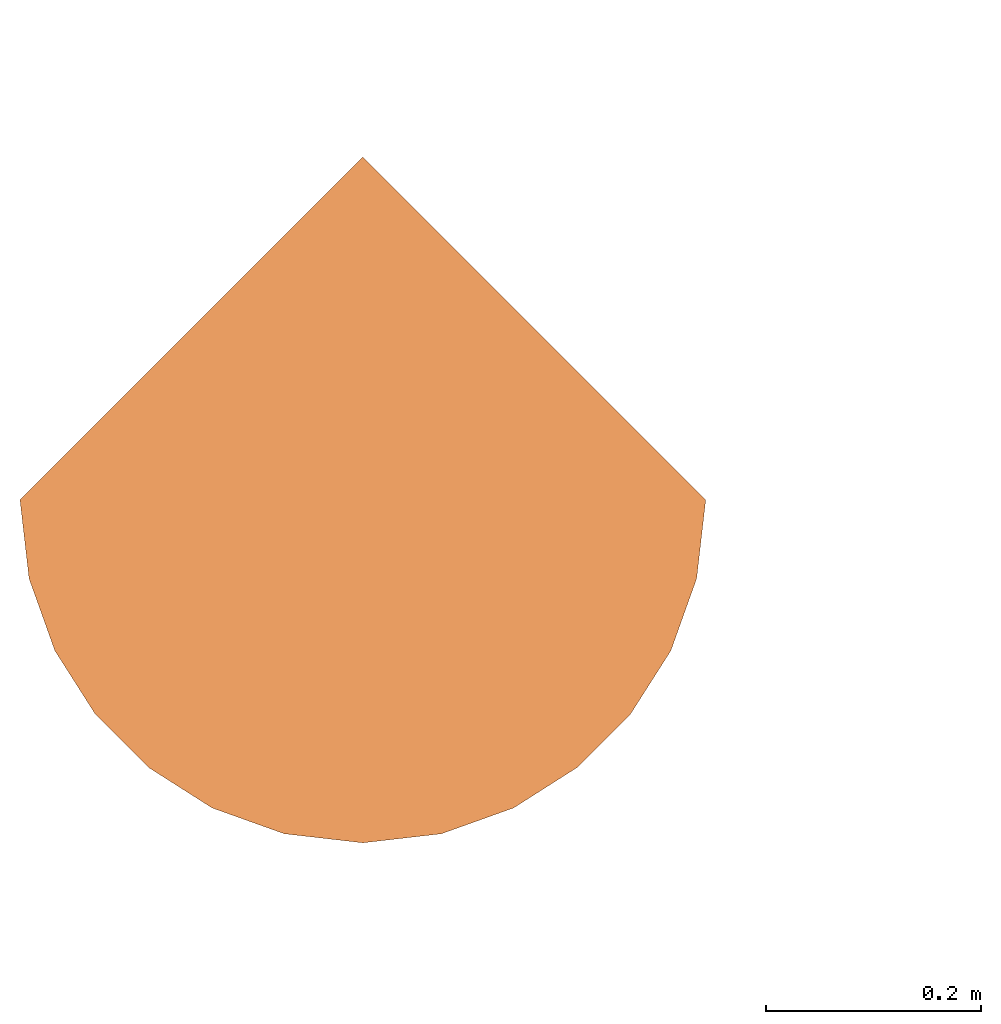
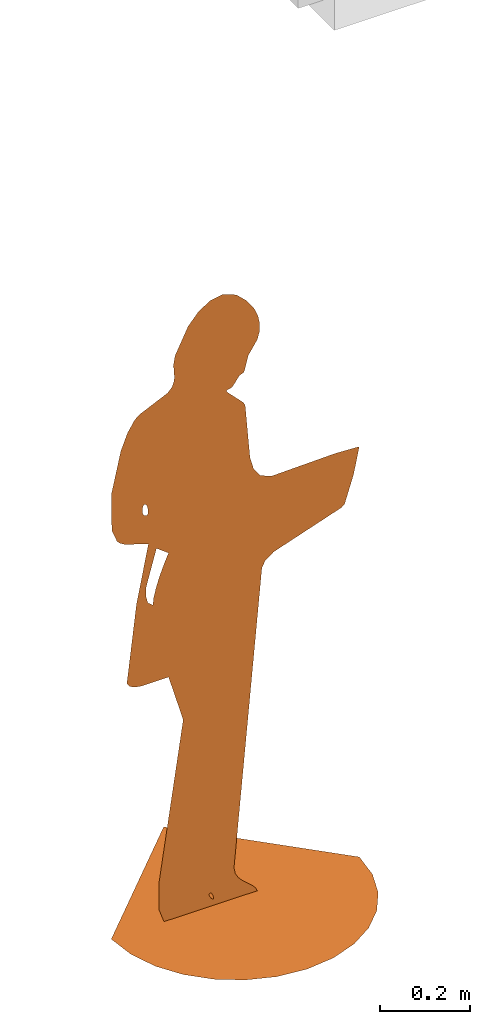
# One storey, part 17 of 18: 1 proxy.
"""IFC2X3 building model written with IfcOpenShell, lengths in metres."""

import ifcopenshell
import ifcopenshell.guid

model = None  # the IFC model being written
_history = None  # IfcOwnerHistory: only IFC2X3 demands one
_inside = {}  # id of a spatial element -> (the spatial element, [elements in it])
_under = {}  # id of a project, library or spatial element -> (it, [spatial elements below it])
_declared = {}  # id of a project -> (the project, [libraries it declares])
_typed = {}  # id of a type object -> (the type object, [elements of that type])
_made_of = {}  # id of a material, layer set ... -> (it, [elements and type objects made of it])


def new_model(schema):
    """Start an empty IFC model of exactly this schema.

    Asked for "IFC4X3", IfcOpenShell would pick the latest addendum, in which some entities
    have other attributes; the version numbers below select the first issue.
    IFC2X3 requires an IfcOwnerHistory on every rooted entity: one is made here for all.
    """
    global model, _history
    if schema == "IFC4X3":
        model = ifcopenshell.file(schema_version=(4, 3, 0, 0))
    else:
        model = ifcopenshell.file(schema=schema)
    _inside.clear()
    _under.clear()
    _declared.clear()
    _typed.clear()
    _made_of.clear()
    _history = None
    if model.schema == "IFC2X3":
        org = make("IfcOrganization", Name="unknown")
        user = make(
            "IfcPersonAndOrganization",
            ThePerson=make("IfcPerson", FamilyName="unknown"),
            TheOrganization=org,
        )
        app = make(
            "IfcApplication",
            ApplicationDeveloper=org,
            Version="unknown",
            ApplicationFullName="unknown",
            ApplicationIdentifier="unknown",
        )
        _history = make(
            "IfcOwnerHistory",
            OwningUser=user,
            OwningApplication=app,
            ChangeAction="ADDED",
            CreationDate=0,
        )
    return model


def make(cls, **values):
    """One entity of the class cls with the attributes given. An attribute that is None is left unset."""
    return model.create_entity(
        cls, **{name: value for name, value in values.items() if value is not None}
    )


def entity(cls, *values):
    """Any entity or typed value of the class cls, its attributes in the order of the schema. None: left unset."""
    e = model.create_entity(cls)
    for i, value in enumerate(values):
        if value is not None:
            e[i] = value
    return e


def rooted(cls, **values):
    """An entity with a GlobalId (a new one), such as an element, a storey or a relation."""
    return make(cls, GlobalId=ifcopenshell.guid.new(), OwnerHistory=_history, **values)


def si_unit(unit_type, name, prefix=None):
    """IfcSIUnit, for example si_unit("LENGTHUNIT", "METRE", prefix="MILLI")."""
    return make("IfcSIUnit", UnitType=unit_type, Prefix=prefix, Name=name)


def converted_unit(unit_type, name, factor, base, dimensions=None, offset=None):
    """IfcConversionBasedUnit, such as the inch: factor (a typed value) times the base unit."""
    return make(
        "IfcConversionBasedUnit"
        if offset is None
        else "IfcConversionBasedUnitWithOffset",
        ConversionOffset=offset,
        Dimensions=None
        if dimensions is None
        else entity("IfcDimensionalExponents", *dimensions),
        UnitType=unit_type,
        Name=name,
        ConversionFactor=make(
            "IfcMeasureWithUnit", ValueComponent=factor, UnitComponent=base
        ),
    )


def derived_unit(unit_type, elements):
    """IfcDerivedUnit: a product of units, each with its exponent."""
    return make(
        "IfcDerivedUnit",
        Elements=[
            make("IfcDerivedUnitElement", Unit=unit, Exponent=power)
            for unit, power in elements
        ],
        UnitType=unit_type,
    )


def assignment(units):
    """IfcUnitAssignment: the units of a project."""
    return None if units is None else make("IfcUnitAssignment", Units=units)


def point(xyz):
    """IfcCartesianPoint."""
    return None if xyz is None else make("IfcCartesianPoint", Coordinates=xyz)


def direction(xyz):
    """IfcDirection."""
    return None if xyz is None else make("IfcDirection", DirectionRatios=xyz)


def frame(location, z_axis=None, x_axis=None):
    """IfcAxis2Placement3D, a coordinate frame: its origin and axes. An axis left out is left unset."""
    return make(
        "IfcAxis2Placement3D",
        Location=point(location),
        Axis=direction(z_axis),
        RefDirection=direction(x_axis),
    )


def origin():
    """The frame at (0, 0, 0) with its axes left unset."""
    return frame((0.0, 0.0, 0.0))


def place(relative_to, where):
    """IfcLocalPlacement: puts the frame where relative to a parent placement (None: the world)."""
    return make(
        "IfcLocalPlacement", PlacementRelTo=relative_to, RelativePlacement=where
    )


def context(
    kind, dimensions, precision=None, world=None, true_north=None, identifier=None
):
    """IfcGeometricRepresentationContext, for example the 3D "Model" context."""
    return make(
        "IfcGeometricRepresentationContext",
        ContextIdentifier=identifier,
        ContextType=kind,
        CoordinateSpaceDimension=dimensions,
        Precision=precision,
        WorldCoordinateSystem=world,
        TrueNorth=true_north,
    )


def subcontext(parent, identifier, kind, view, scale=None):
    """IfcGeometricRepresentationSubContext, for example "Body" below "Model"."""
    return make(
        "IfcGeometricRepresentationSubContext",
        ContextIdentifier=identifier,
        ContextType=kind,
        ParentContext=parent,
        TargetScale=scale,
        TargetView=view,
    )


def project(units=None, contexts=None):
    """IfcProject with its units and contexts."""
    return rooted(
        "IfcProject",
        Name="project",
        RepresentationContexts=contexts,
        UnitsInContext=assignment(units),
    )


def spatial(cls, under=None, at=None, **own):
    """A site, building, storey or space (cls), placed at a placement, below another one or the project."""
    s = rooted(cls, ObjectPlacement=at, **own)
    if under is not None:
        _under.setdefault(under.id(), (under, []))[1].append(s)
    return s


def faces_of(points, faces, orient=None, outer=None):
    """IfcFace entities. A face is a list of loops; a loop is a list of indices into points, from 0.

    orient and outer hold one flag for each loop. By default every Orientation is true, the
    first loop of a face is its IfcFaceOuterBound and the others are IfcFaceBound.
    """
    made = []
    for i, loops in enumerate(faces):
        bounds = []
        for j, loop in enumerate(loops):
            is_outer = j == 0 if outer is None else outer[i][j]
            bounds.append(
                make(
                    "IfcFaceOuterBound" if is_outer else "IfcFaceBound",
                    Bound=make("IfcPolyLoop", Polygon=[points[k] for k in loop]),
                    Orientation=True if orient is None else orient[i][j],
                )
            )
        made.append(make("IfcFace", Bounds=bounds))
    return made


def face_set(faces, orient=None, outer=None):
    """The faces of one IfcConnectedFaceSet. surface_model builds it on its shared points."""
    return ("IfcConnectedFaceSet", faces, orient, outer)


def surface_model(cls, points, shells):
    """IfcFaceBasedSurfaceModel or IfcShellBasedSurfaceModel (cls): surfaces that need not close."""
    shared = [point(p) for p in points]
    made = [make(c, CfsFaces=faces_of(shared, fs, o, b)) for c, fs, o, b in shells]
    if cls == "IfcFaceBasedSurfaceModel":
        return make(cls, FbsmFaces=made)
    return make(cls, SbsmBoundary=made)


def shape(context_of_items, identifier, shape_type, items):
    """IfcShapeRepresentation: the items that make up one representation, for example the "Body"."""
    return make(
        "IfcShapeRepresentation",
        ContextOfItems=context_of_items,
        RepresentationIdentifier=identifier,
        RepresentationType=shape_type,
        Items=items,
    )


def source(mapping_origin, context_of_items, identifier, shape_type, items):
    """IfcRepresentationMap: a shape defined once, which mapped items show again and again."""
    return make(
        "IfcRepresentationMap",
        MappingOrigin=mapping_origin,
        MappedRepresentation=shape(context_of_items, identifier, shape_type, items),
    )


def transform(
    local_origin,
    x_axis=None,
    y_axis=None,
    z_axis=None,
    scale=None,
    scale2=None,
    scale3=None,
    uniform=True,
):
    """IfcCartesianTransformationOperator3D, or its non-uniform kind. x_axis, y_axis, z_axis: its Axis1, 2, 3."""
    if uniform:
        return make(
            "IfcCartesianTransformationOperator3D",
            Axis1=direction(x_axis),
            Axis2=direction(y_axis),
            LocalOrigin=point(local_origin),
            Scale=scale,
            Axis3=direction(z_axis),
        )
    return make(
        "IfcCartesianTransformationOperator3DnonUniform",
        Axis1=direction(x_axis),
        Axis2=direction(y_axis),
        LocalOrigin=point(local_origin),
        Scale=scale,
        Axis3=direction(z_axis),
        Scale2=scale2,
        Scale3=scale3,
    )


def mapped(mapping_source, mapping_target):
    """IfcMappedItem: shows the shape of a source again, moved by a transform."""
    return make(
        "IfcMappedItem", MappingSource=mapping_source, MappingTarget=mapping_target
    )


def made_of(thing, what):
    """Note that an element or type object is made of a material, layer set ...; save() writes the relation."""
    if what is not None:
        _made_of.setdefault(what.id(), (what, []))[1].append(thing)
    return thing


def type_object(cls, material=None, **own):
    """A type object (cls), such as IfcWallType, which elements share."""
    return made_of(rooted(cls, **own), material)


def type_shapes(of_type, sources):
    """Give a type object the sources (RepresentationMaps) that its elements show as mapped items."""
    of_type.RepresentationMaps = sources


def element(
    cls,
    number,
    at=None,
    inside=None,
    cuts=None,
    type_object=None,
    material=None,
    context=None,
    identifier="Body",
    shape_type=None,
    held_by="IfcProductDefinitionShape",
    body=None,
    shapes=None,
    **own,
):
    """One element of the class cls, such as IfcWall. Its Tag is "e" and its number.

    at: its placement. inside: the storey or other place that contains it. cuts: it is an
    opening in that element (IfcRelVoidsElement). A single representation is given by context,
    identifier, shape_type and body (its items); several are given by shapes. held_by: the class
    of the entity that holds the representations. save() writes the other relations.
    """
    e = rooted(cls, Tag="e%d" % number, ObjectPlacement=at, **own)
    if body is not None:
        shapes = [shape(context, identifier, shape_type, body)]
    if shapes is not None:
        e.Representation = make(held_by, Representations=shapes)
    if inside is not None:
        _inside.setdefault(inside.id(), (inside, []))[1].append(e)
    if cuts is not None:
        rooted(
            "IfcRelVoidsElement", RelatingBuildingElement=cuts, RelatedOpeningElement=e
        )
    if type_object is not None:
        _typed.setdefault(type_object.id(), (type_object, []))[1].append(e)
    return made_of(e, material)


def aggregate(whole, parts):
    """IfcRelAggregates: a whole, such as a stair, and the parts it consists of."""
    return rooted("IfcRelAggregates", RelatingObject=whole, RelatedObjects=parts)


def save(model, path):
    """Write the relations noted so far, then the file.

    IfcRelAggregates (storeys below a building ...), IfcRelContainedInSpatialStructure (elements
    in a storey), IfcRelDefinesByType, IfcRelAssociatesMaterial and IfcRelDeclares: one each for
    every whole, place, type object, material and project.
    """
    for whole, parts in _under.values():
        aggregate(whole, parts)
    for where, things in _inside.values():
        rooted(
            "IfcRelContainedInSpatialStructure",
            RelatedElements=things,
            RelatingStructure=where,
        )
    for kind, things in _typed.values():
        rooted("IfcRelDefinesByType", RelatedObjects=things, RelatingType=kind)
    for what, things in _made_of.values():
        rooted("IfcRelAssociatesMaterial", RelatedObjects=things, RelatingMaterial=what)
    for by, libraries in _declared.values():
        rooted("IfcRelDeclares", RelatingContext=by, RelatedDefinitions=libraries)
    model.write(path)


model = new_model("IFC2X3")

# Units and contexts
model_context = context("Model", 3, precision=1e-05, world=origin(), true_north=direction((6.12303176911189e-17, 1.0)))
body_context = subcontext(model_context, "Body", "Model", "MODEL_VIEW")
ifc_project = project(units=[si_unit("LENGTHUNIT", "METRE"), si_unit("AREAUNIT", "SQUARE_METRE"), si_unit("VOLUMEUNIT", "CUBIC_METRE"), converted_unit("PLANEANGLEUNIT", "DEGREE", entity("IfcRatioMeasure", 0.0174532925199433), si_unit("PLANEANGLEUNIT", "RADIAN"), dimensions=[0, 0, 0, 0, 0, 0, 0]), si_unit("MASSUNIT", "GRAM", prefix="KILO"), derived_unit("MASSDENSITYUNIT", [(si_unit("MASSUNIT", "GRAM", prefix="KILO"), 1), (si_unit("LENGTHUNIT", "METRE"), -3)]), derived_unit("MOMENTOFINERTIAUNIT", [(si_unit("LENGTHUNIT", "METRE"), 4)]), si_unit("TIMEUNIT", "SECOND"), si_unit("FREQUENCYUNIT", "HERTZ"), si_unit("THERMODYNAMICTEMPERATUREUNIT", "DEGREE_CELSIUS"), derived_unit("THERMALTRANSMITTANCEUNIT", [(si_unit("MASSUNIT", "GRAM", prefix="KILO"), 1), (si_unit("THERMODYNAMICTEMPERATUREUNIT", "KELVIN"), -1), (si_unit("TIMEUNIT", "SECOND"), -3)]), derived_unit("VOLUMETRICFLOWRATEUNIT", [(si_unit("LENGTHUNIT", "METRE"), 3), (si_unit("TIMEUNIT", "SECOND"), -1)]), si_unit("ELECTRICCURRENTUNIT", "AMPERE"), si_unit("ELECTRICVOLTAGEUNIT", "VOLT"), si_unit("POWERUNIT", "WATT"), si_unit("FORCEUNIT", "NEWTON", prefix="KILO"), si_unit("ILLUMINANCEUNIT", "LUX"), si_unit("LUMINOUSFLUXUNIT", "LUMEN"), si_unit("LUMINOUSINTENSITYUNIT", "CANDELA"), derived_unit("USERDEFINED", [(si_unit("MASSUNIT", "GRAM", prefix="KILO"), -1), (si_unit("LENGTHUNIT", "METRE"), -2), (si_unit("TIMEUNIT", "SECOND"), 3), (si_unit("LUMINOUSFLUXUNIT", "LUMEN"), 1)]), derived_unit("LINEARVELOCITYUNIT", [(si_unit("LENGTHUNIT", "METRE"), 1), (si_unit("TIMEUNIT", "SECOND"), -1)]), si_unit("PRESSUREUNIT", "PASCAL"), derived_unit("USERDEFINED", [(si_unit("LENGTHUNIT", "METRE"), -2), (si_unit("MASSUNIT", "GRAM", prefix="KILO"), 1), (si_unit("TIMEUNIT", "SECOND"), -2)]), derived_unit("LINEARFORCEUNIT", [(si_unit("MASSUNIT", "GRAM", prefix="KILO"), 1), (si_unit("LENGTHUNIT", "METRE"), 1), (si_unit("TIMEUNIT", "SECOND"), -2), (si_unit("LENGTHUNIT", "METRE"), -1)]), derived_unit("PLANARFORCEUNIT", [(si_unit("MASSUNIT", "GRAM", prefix="KILO"), 1), (si_unit("LENGTHUNIT", "METRE"), 1), (si_unit("TIMEUNIT", "SECOND"), -2), (si_unit("LENGTHUNIT", "METRE"), -2)])], contexts=[model_context])

# Site, building, storey
site_placement = place(None, origin())
site = spatial("IfcSite", under=ifc_project, at=site_placement, Name="Surface", CompositionType="ELEMENT")
building_placement = place(site_placement, origin())
building = spatial("IfcBuilding", under=site, at=building_placement, CompositionType="ELEMENT")
storey_placement = place(building_placement, origin())
storey = spatial("IfcBuildingStorey", under=building, at=storey_placement, Name="RDC", CompositionType="ELEMENT", Elevation=-1.94916083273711e-14)

# Proxy
building_element_proxy_type = type_object("IfcBuildingElementProxyType", Name="RPC Femme:Lisa", PredefinedType="NOTDEFINED")
shared_shape = source(origin(), body_context, "Body", "SurfaceModel", [
    surface_model("IfcFaceBasedSurfaceModel", [(0.318654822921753, 2.78576924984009e-08, 4.24172741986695e-08), (-4.17865344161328e-08, 0.318654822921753, 4.24172741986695e-08), (-0.318654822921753, 0.0, 4.24172741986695e-08), (0.310230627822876, -0.0730145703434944, 4.24172741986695e-08), (-0.310230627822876, -0.0730146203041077, 4.24172741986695e-08), (0.286238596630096, -0.140066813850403, 4.24172741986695e-08), (-0.286238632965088, -0.14006686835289, 4.24172741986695e-08), (-0.248599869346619, -0.199235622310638, 4.24172741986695e-08), (0.248599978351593, -0.199235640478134, 4.24172741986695e-08), (0.199235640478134, -0.248599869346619, 4.24172741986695e-08), (-0.199235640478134, -0.248599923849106, 4.24172741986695e-08), (-0.140066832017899, -0.286238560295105, 4.24172741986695e-08), (-0.0730145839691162, -0.310230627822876, 4.24172741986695e-08), (1.39288462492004e-08, -0.318654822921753, 4.24172741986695e-08), (0.0730146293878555, -0.310230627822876, 4.24172741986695e-08), (0.140066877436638, -0.286238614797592, 4.24172741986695e-08), (-0.211632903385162, 4.18688860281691e-07, 0.86958950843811), (-0.133775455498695, -2.28444324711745e-06, 0.531148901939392), (-0.171402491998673, -1.25225027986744e-06, 0.660382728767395), (-0.174873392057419, 1.37999741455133e-06, 0.989948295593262), (-0.171280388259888, 1.43756228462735e-06, 0.997155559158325), (-0.0645414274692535, -6.23517512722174e-06, 0.0365050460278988), (-0.181166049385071, 1.2656338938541e-06, 0.975629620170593), (-0.188972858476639, 1.11095285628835e-06, 0.956263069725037), (0.0516611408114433, -6.44441624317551e-06, 0.0103074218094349), (0.0564128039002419, -6.52674214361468e-06, 0.0), (-0.183261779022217, -6.52674214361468e-06, 0.0), (0.042646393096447, -6.36638715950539e-06, 0.0200769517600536), (-0.233749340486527, 2.42748774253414e-06, 1.12109733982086), (-0.228229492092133, 2.40965013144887e-06, 1.11886397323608), (-0.22322620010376, 1.77577831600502e-06, 1.03950130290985), (-0.241853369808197, -1.25381847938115e-06, 0.660186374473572), (-0.258831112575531, -1.22941754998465e-06, 0.663241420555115), (-0.271669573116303, -1.17811702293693e-06, 0.669664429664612), (-0.278426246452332, -1.09142624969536e-06, 0.68051834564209), (-0.253934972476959, 5.4655446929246e-07, 0.885598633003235), (-0.224559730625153, 5.03259847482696e-07, 0.880177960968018), (-0.229693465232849, 6.60111227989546e-07, 0.899816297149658), (-0.22886419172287, 8.63417954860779e-07, 0.925270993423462), (-0.202521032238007, 1.62470223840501e-06, 1.02058610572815), (-0.285405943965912, 1.94348737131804e-06, 1.06049893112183), (-0.295989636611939, 1.99623259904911e-06, 1.0671027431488), (-0.303727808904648, 2.05811147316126e-06, 1.07485023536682), (-0.317308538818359, 2.33260377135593e-06, 1.10921746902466), (-0.237153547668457, 2.46397603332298e-06, 1.12566573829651), (-0.23876551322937, 2.51163382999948e-06, 1.13163267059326), (-0.238908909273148, 2.56298328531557e-06, 1.13806178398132), (-0.237907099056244, 2.61054183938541e-06, 1.14401621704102), (-0.317994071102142, 3.13314370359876e-06, 1.20944754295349), (-0.236083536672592, 2.646829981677e-06, 1.14855961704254), (-0.233761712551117, 2.66436820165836e-06, 1.15075555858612), (-0.225250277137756, 2.42301849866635e-06, 1.12053770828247), (-0.0627427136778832, -6.24094838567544e-06, 0.035782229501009), (-0.066984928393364, -6.2499689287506e-06, 0.034652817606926), (-0.294042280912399, 3.99015323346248e-06, 1.31674797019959), (-0.230288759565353, 2.65538591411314e-06, 1.1496309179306), (0.317035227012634, 2.36809215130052e-06, 1.11366080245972), (0.317668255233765, 2.36430014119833e-06, 1.11318597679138), (0.317994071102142, 2.36026584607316e-06, 1.11268092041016), (0.31348046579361, 2.37804718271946e-06, 1.11490716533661), (0.303952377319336, 1.81530806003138e-06, 1.04445056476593), (0.255927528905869, 2.40043276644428e-06, 1.11770997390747), (0.280753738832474, 1.23499315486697e-06, 0.971793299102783), (0.27324831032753, 1.18284393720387e-06, 0.965264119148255), (0.0939398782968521, 2.36546443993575e-06, 1.1133317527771), (0.0985043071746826, 7.07794528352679e-07, 0.905786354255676), (0.0648742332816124, 2.45548635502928e-06, 1.12460279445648), (0.0771590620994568, 5.85066560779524e-07, 0.89042043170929), (-0.276826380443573, 4.33523169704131e-06, 1.35995274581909), (-0.258249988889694, 4.56890589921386e-06, 1.38920953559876), (-0.246257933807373, 4.64888296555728e-06, 1.39922287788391), (-0.17419383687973, 4.91311113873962e-06, 1.43230501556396), (-0.227347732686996, 2.62045972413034e-06, 1.145257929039), (-0.2238898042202, 2.46086874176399e-06, 1.12527673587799), (-0.0606268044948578, -6.26122326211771e-06, 0.0332437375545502), (0.0471253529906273, 2.64929690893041e-06, 1.14886853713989), (0.0682314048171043, 4.39482785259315e-07, 0.87219298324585), (-0.163307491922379, 5.00621678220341e-06, 1.44396215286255), (-0.065059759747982, 6.61297509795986e-06, 1.64513330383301), (-0.0320003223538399, 6.65984033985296e-06, 1.65100096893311), (0.00246410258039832, 6.55177345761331e-06, 1.63747054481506), (-0.0952937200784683, 6.45076555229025e-06, 1.62482407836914), (0.0289675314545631, 6.35039246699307e-06, 1.61225711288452), (-0.121281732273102, 6.21280174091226e-06, 1.59503040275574), (0.047236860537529, 6.14530346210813e-06, 1.58657946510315), (0.058191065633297, 5.94359036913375e-06, 1.56132432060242), (0.0627491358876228, 5.7523365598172e-06, 1.53737854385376), (0.0618300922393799, 5.57862651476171e-06, 1.51562972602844), (0.0563528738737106, 5.42954249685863e-06, 1.49696385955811), (-0.154837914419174, 5.66796870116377e-06, 1.52681567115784), (0.0332519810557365, 5.14997274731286e-06, 1.46196090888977), (-0.159565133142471, 5.44027788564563e-06, 1.49830796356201), (-0.15723640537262, 5.3901814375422e-06, 1.49203567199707), (-0.156608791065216, 5.18203531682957e-06, 1.46597519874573), (0.0230950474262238, 4.84034357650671e-06, 1.42319437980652), (0.0216613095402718, 4.82252426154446e-06, 1.42096326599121), (0.0209385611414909, 4.8135408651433e-06, 1.41983847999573), (0.0204209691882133, 4.80985391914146e-06, 1.41937688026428), (0.0196026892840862, 4.80792173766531e-06, 1.41913488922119), (0.0179778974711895, 4.80420762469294e-06, 1.41866994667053), (0.015040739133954, 4.79516878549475e-06, 1.41753832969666), (0.0102853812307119, 4.77726686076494e-06, 1.41529689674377), (-0.158168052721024, 5.11227441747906e-06, 1.45724084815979), (-0.00552967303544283, 4.60236368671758e-06, 1.39339852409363), (-0.00913058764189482, 4.57753501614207e-06, 1.3902898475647), (-0.0138403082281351, 4.56198081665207e-06, 1.38834243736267), (-0.0202838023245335, 4.55656156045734e-06, 1.38766399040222), (-0.0231512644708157, 4.53969974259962e-06, 1.38555292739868), (-0.16043608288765, 5.0517780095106e-06, 1.44966660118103), (-0.019312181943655, 4.49289992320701e-06, 1.3796932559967), (0.0201347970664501, 4.16976488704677e-06, 1.3392358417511), (0.0252754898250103, 4.09585769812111e-06, 1.32998248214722), (0.0377544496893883, 2.91605715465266e-06, 1.18226773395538), (-0.225155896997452, 2.56967439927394e-06, 1.13889945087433), (-0.00336177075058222, -5.8615466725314e-06, 0.0832845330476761), (-3.6687809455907e-05, -5.99486996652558e-06, 0.066592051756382), (-0.0585206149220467, -6.29060129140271e-06, 0.0295655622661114), (0.00802700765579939, -6.10689657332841e-06, 0.0525659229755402), (-0.0556450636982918, -6.3550618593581e-06, 0.0214948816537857), (0.0190289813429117, -6.20274663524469e-06, 0.0405652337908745), (-0.0555294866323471, -6.37934469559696e-06, 0.0184546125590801), (-0.0567312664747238, -6.39112573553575e-06, 0.0169795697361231), (-0.0586376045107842, -6.38577550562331e-06, 0.0176494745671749), (-0.0612032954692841, -6.36664496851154e-06, 0.0200446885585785), (-0.0660977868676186, -6.30657214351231e-06, 0.0275659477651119), (-0.0673191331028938, -6.27539554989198e-06, 0.0314693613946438), (-0.196662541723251, -6.21638168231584e-06, 0.0388580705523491), (-0.19543543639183, -5.61610806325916e-06, 0.114014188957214), (-0.209623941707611, 5.69822840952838e-07, 0.88851189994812), (-0.204387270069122, 7.46565884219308e-07, 0.910640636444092), (-0.197108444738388, 9.32436544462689e-07, 0.933912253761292)], [face_set([[[0, 1, 2]], [[3, 0, 2]], [[3, 2, 4]], [[5, 3, 4]], [[5, 4, 6]], [[5, 6, 7]], [[8, 5, 7]], [[9, 8, 7]], [[9, 7, 10]], [[9, 10, 11]], [[9, 11, 12]], [[9, 12, 13]], [[9, 13, 14]], [[9, 14, 15]], [[16, 17, 18]], [[19, 20, 21]], [[22, 19, 21]], [[23, 22, 21]], [[24, 25, 26]], [[27, 24, 26]], [[28, 29, 30]], [[16, 18, 31]], [[16, 31, 32]], [[16, 32, 33]], [[16, 33, 34]], [[16, 34, 35]], [[36, 16, 35]], [[37, 36, 35]], [[38, 37, 35]], [[39, 38, 35]], [[39, 35, 30]], [[28, 30, 40]], [[28, 40, 41]], [[28, 41, 42]], [[28, 42, 43]], [[44, 28, 43]], [[45, 44, 43]], [[46, 45, 43]], [[47, 46, 43]], [[47, 43, 48]], [[49, 47, 48]], [[50, 49, 48]], [[30, 29, 51]], [[52, 21, 20]], [[23, 21, 53]], [[50, 48, 54]], [[55, 50, 54]], [[39, 30, 51]], [[56, 57, 58]], [[59, 56, 58]], [[59, 58, 60]], [[61, 59, 60]], [[61, 60, 62]], [[61, 62, 63]], [[64, 61, 63]], [[64, 63, 65]], [[66, 64, 65]], [[66, 65, 67]], [[55, 54, 68]], [[55, 68, 69]], [[55, 69, 70]], [[55, 70, 71]], [[72, 55, 71]], [[20, 39, 51]], [[20, 51, 73]], [[74, 52, 20]], [[75, 66, 67]], [[75, 67, 76]], [[72, 71, 77]], [[78, 79, 80]], [[81, 78, 80]], [[81, 80, 82]], [[83, 81, 82]], [[83, 82, 84]], [[83, 84, 85]], [[83, 85, 86]], [[83, 86, 87]], [[83, 87, 88]], [[89, 83, 88]], [[89, 88, 90]], [[91, 89, 90]], [[92, 91, 90]], [[93, 92, 90]], [[93, 90, 94]], [[93, 94, 95]], [[93, 95, 96]], [[93, 96, 97]], [[93, 97, 98]], [[93, 98, 99]], [[93, 99, 100]], [[93, 100, 101]], [[102, 93, 101]], [[102, 101, 103]], [[102, 103, 104]], [[102, 104, 105]], [[102, 105, 106]], [[102, 106, 107]], [[108, 102, 107]], [[77, 108, 107]], [[72, 77, 107]], [[72, 107, 109]], [[72, 109, 110]], [[72, 110, 111]], [[72, 111, 112]], [[113, 72, 112]], [[73, 113, 112]], [[73, 112, 75]], [[73, 75, 76]], [[20, 73, 76]], [[74, 20, 76]], [[74, 76, 114]], [[74, 114, 115]], [[116, 74, 115]], [[116, 115, 117]], [[118, 116, 117]], [[118, 117, 119]], [[120, 118, 119]], [[120, 119, 27]], [[121, 120, 27]], [[121, 27, 26]], [[122, 121, 26]], [[123, 122, 26]], [[124, 123, 26]], [[125, 124, 26]], [[125, 26, 126]], [[125, 126, 127]], [[53, 125, 127]], [[17, 16, 128]], [[17, 128, 129]], [[17, 129, 130]], [[17, 130, 23]], [[17, 23, 53]], [[17, 53, 127]]])]),
])
type_shapes(building_element_proxy_type, [shared_shape])
proxy_placement = place(storey_placement, frame((-19.4976549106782, -1.91262022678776, -0.49999999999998)))
element("IfcBuildingElementProxy", 1, at=proxy_placement, inside=storey, type_object=building_element_proxy_type, Name="RPC Femme:Lisa", ObjectType="RPC Femme:Lisa", context=body_context, shape_type="MappedRepresentation", body=[
    mapped(shared_shape, transform((0.0, 0.0, 0.0), scale=1.0)),
])

save(model, "model.ifc")
